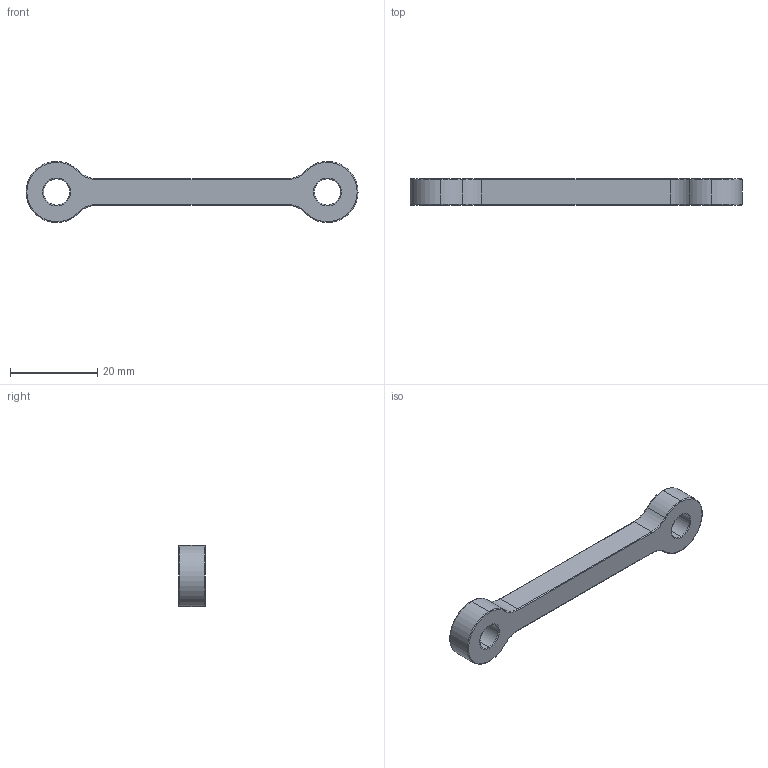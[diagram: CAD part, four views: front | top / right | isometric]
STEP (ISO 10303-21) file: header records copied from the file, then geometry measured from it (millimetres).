
FILE_DESCRIPTION (( 'STEP AP214' ), '1' );
FILE_NAME ('link.STEP', '2026-04-30T16:23:23', ( '' ), ( '' ), 'SwSTEP 2.0', 'SolidWorks 2022', '' );
FILE_SCHEMA (( 'AUTOMOTIVE_DESIGN' ));
Length unit declared in the file: millimetre
Products named in the file (1): link
Bounding box: 76 x 6 x 14 mm (x, y, z)
Volume: 3276.2 mm3; surface area: 2317.7 mm2
Topology: 1 solids, 1 shells, 50 faces, 112 edges, 64 vertices
Faces by surface type: torus 28, cylinder 18, plane 4
Entity records: 1450 total; most frequent: DIRECTION 302, CARTESIAN_POINT 227, ORIENTED_EDGE 224, AXIS2_PLACEMENT_3D 139, EDGE_CURVE 112, CIRCLE 88, VERTEX_POINT 64, EDGE_LOOP 54
